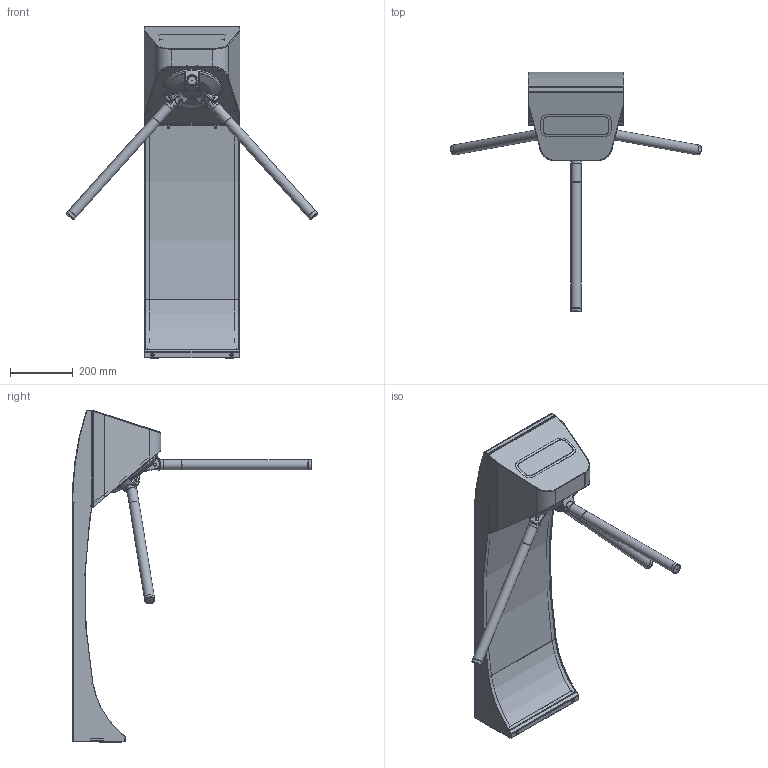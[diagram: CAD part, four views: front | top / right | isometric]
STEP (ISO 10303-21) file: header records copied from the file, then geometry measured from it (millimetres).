
FILE_DESCRIPTION(/* description */ ('Unknown'),/* implementation_level */ '2;1');
FILE_NAME(/* name */ 'TTR-10AB',/* time_stamp */ '2021-11-12T15:10:40+03:00',/* author */ ('Unknown'),/* organization */ ('Unknown'),/* preprocessor_version */ 'ST-DEVELOPER v16.7',/* originating_system */ 'Solid Edge',/* authorisation */ 'Unknown');
FILE_SCHEMA (('CONFIG_CONTROL_DESIGN'));
Length unit declared in the file: millimetre
Products named in the file (1): TTR-10AB
Bounding box: 798.42 x 761.71 x 1054.5 mm (x, y, z)
Volume: 2655119.1 mm3; surface area: 2636290.9 mm2
Topology: 44 solids, 44 shells, 2360 faces, 6020 edges, 3758 vertices
Faces by surface type: plane 828, cylinder 710, bspline 462, cone 202, torus 113, sphere 45
Full cylindrical faces by diameter (mm): 3 x2, 3.2 x2, 3.3 x21, 4 x6, 4.019 x6, 4.1 x4, 4.134 x6, 4.2 x2, 4.3 x2, 4.6 x2, 5 x21, 5.8 x3, 5.9 x2, 6.4 x6, 6.466 x3, 6.6 x4, 8 x9, 8.1 x2, 8.5 x2, 9 x11, 10 x27, 10.5 x4, 10.8 x2, 12 x4, 13 x3, 14 x4, 14.5 x3, 20 x1, 24 x3, 27 x3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
Entity records: 112297 total; most frequent: CARTESIAN_POINT 50030, ORIENTED_EDGE 11142, DIRECTION 9749, EDGE_CURVE 5571, AXIS2_PLACEMENT_3D 3803, VERTEX_POINT 3678, FACE_BOUND 2959, EDGE_LOOP 2941
